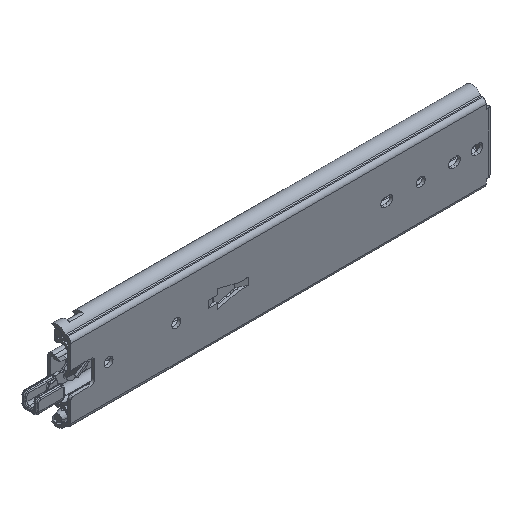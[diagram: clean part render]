
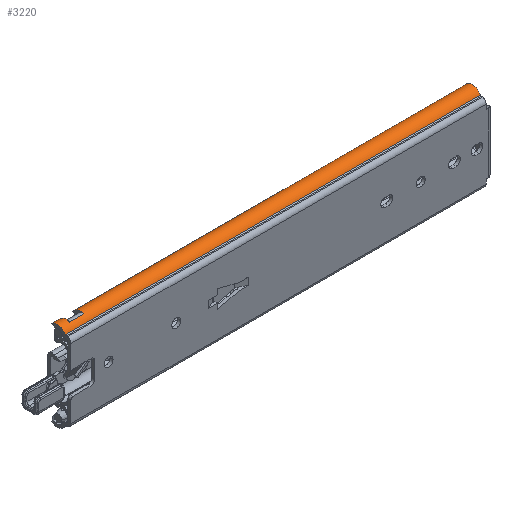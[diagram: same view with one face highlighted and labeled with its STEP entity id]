
A CAD part, isometric view. The second image highlights one B-rep face of the part: STEP entity #3220.
In plain terms, the highlighted cylindrical face has radius 7.25 mm (diameter 14.5 mm), a partial arc.
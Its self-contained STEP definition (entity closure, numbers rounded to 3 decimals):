
#5=CARTESIAN_POINT('',(0.,11.5,30.4));
#6=DIRECTION('',(1.,0.,0.));
#7=DIRECTION('',(0.,0.632,0.775));
#8=AXIS2_PLACEMENT_3D('',#5,#6,#7);
#827=CARTESIAN_POINT('',(350.6,11.5,30.4));
#828=DIRECTION('',(1.,0.,0.));
#829=DIRECTION('',(0.,0.38,0.925));
#830=AXIS2_PLACEMENT_3D('',#827,#828,#829);
#876=CARTESIAN_POINT('',(1.401,17.079,35.031));
#877=CARTESIAN_POINT('',(0.932,16.779,35.392));
#878=CARTESIAN_POINT('',(0.465,16.446,35.722));
#879=CARTESIAN_POINT('',(0.,16.079,
36.021));
#881=DIRECTION('',(1.,0.,0.));
#882=VECTOR('',#881,6.099);
#883=CARTESIAN_POINT('',(1.401,17.079,35.031));
#884=LINE('',#883,#882);
#885=CARTESIAN_POINT('',(7.5,11.5,30.4));
#886=DIRECTION('',(1.,0.,0.));
#887=DIRECTION('',(0.,0.769,0.639));
#888=AXIS2_PLACEMENT_3D('',#885,#886,#887);
#890=CARTESIAN_POINT('',(19.5,11.5,30.4));
#891=DIRECTION('',(1.,0.,0.));
#892=DIRECTION('',(0.,0.769,0.639));
#893=AXIS2_PLACEMENT_3D('',#890,#891,#892);
#895=DIRECTION('',(1.,0.,0.));
#896=VECTOR('',#895,329.765);
#897=CARTESIAN_POINT('',(19.5,17.079,35.031));
#898=LINE('',#897,#896);
#899=CARTESIAN_POINT('',(350.6,14.255,37.106));
#900=CARTESIAN_POINT('',(350.6,14.486,37.011));
#901=CARTESIAN_POINT('',(350.571,14.942,36.797));
#902=CARTESIAN_POINT('',(350.416,15.607,36.391));
#903=CARTESIAN_POINT('',(350.14,16.203,35.934));
#904=CARTESIAN_POINT('',(349.731,16.72,35.445));
#905=CARTESIAN_POINT('',(349.426,16.968,35.164));
#906=CARTESIAN_POINT('',(349.265,17.079,35.031));
#908=DIRECTION('',(1.,0.,0.));
#909=VECTOR('',#908,350.6);
#910=CARTESIAN_POINT('',(0.,4.916,33.436));
#911=LINE('',#910,#909);
#1221=DIRECTION('',(1.,0.,0.));
#1222=VECTOR('',#1221,12.);
#1223=CARTESIAN_POINT('',(7.5,8.515,37.007));
#1224=LINE('',#1223,#1222);
#1676=CARTESIAN_POINT('',(0.,4.916,33.436));
#1678=VERTEX_POINT('',#1676);
#1700=CARTESIAN_POINT('',(7.5,17.079,35.031));
#1702=VERTEX_POINT('',#1700);
#1704=CARTESIAN_POINT('',(19.5,17.079,35.031));
#1706=VERTEX_POINT('',#1704);
#1751=CARTESIAN_POINT('',(7.5,8.515,37.007));
#1752=VERTEX_POINT('',#1751);
#1753=CARTESIAN_POINT('',(19.5,8.515,37.007));
#1754=VERTEX_POINT('',#1753);
#2050=CARTESIAN_POINT('',(350.6,4.916,33.436));
#2051=VERTEX_POINT('',#2050);
#2108=VERTEX_POINT('',#899);
#2109=VERTEX_POINT('',#906);
#2132=CARTESIAN_POINT('',(1.401,17.079,35.031));
#2133=VERTEX_POINT('',#2132);
#2134=VERTEX_POINT('',#879);
#3197=CARTESIAN_POINT('',(0.,11.5,30.4));
#3198=DIRECTION('',(1.,0.,0.));
#3199=DIRECTION('',(0.,-1.,0.));
#3200=AXIS2_PLACEMENT_3D('',#3197,#3198,#3199);
#3201=CYLINDRICAL_SURFACE('',#3200,7.25);
#3202=ORIENTED_EDGE('',*,*,#2229,.F.);
#3204=ORIENTED_EDGE('',*,*,#3203,.T.);
#3206=ORIENTED_EDGE('',*,*,#3205,.T.);
#3208=ORIENTED_EDGE('',*,*,#3207,.T.);
#3210=ORIENTED_EDGE('',*,*,#3209,.F.);
#3212=ORIENTED_EDGE('',*,*,#3211,.T.);
#3213=ORIENTED_EDGE('',*,*,#3184,.F.);
#3214=ORIENTED_EDGE('',*,*,#3145,.T.);
#3216=ORIENTED_EDGE('',*,*,#3215,.F.);
#3217=ORIENTED_EDGE('',*,*,#2151,.F.);
#3218=EDGE_LOOP('',(#3202,#3204,#3206,#3208,#3210,#3212,#3213,#3214,#3216,
#3217));
#3219=FACE_OUTER_BOUND('',#3218,.F.);
#9=CIRCLE('',#8,7.25);
#831=CIRCLE('',#830,7.25);
#880=B_SPLINE_CURVE_WITH_KNOTS('',3,(#876,#877,#878,#879),.UNSPECIFIED.,.F.,.F.,
(4,4),(0.,1.),.UNSPECIFIED.);
#889=CIRCLE('',#888,7.25);
#894=CIRCLE('',#893,7.25);
#907=B_SPLINE_CURVE_WITH_KNOTS('',3,(#899,#900,#901,#902,#903,#904,#905,#906),
.UNSPECIFIED.,.F.,.F.,(4,1,1,1,1,4),(0.,0.2,0.4,0.6,0.8,1.),
.UNSPECIFIED.);
#2151=EDGE_CURVE('',#2134,#1678,#9,.T.);
#2229=EDGE_CURVE('',#2133,#2134,#880,.T.);
#3145=EDGE_CURVE('',#2108,#2051,#831,.T.);
#3184=EDGE_CURVE('',#2108,#2109,#907,.T.);
#3203=EDGE_CURVE('',#2133,#1702,#884,.T.);
#3205=EDGE_CURVE('',#1702,#1752,#889,.T.);
#3207=EDGE_CURVE('',#1752,#1754,#1224,.T.);
#3209=EDGE_CURVE('',#1706,#1754,#894,.T.);
#3211=EDGE_CURVE('',#1706,#2109,#898,.T.);
#3215=EDGE_CURVE('',#1678,#2051,#911,.T.);
#3220=ADVANCED_FACE('',(#3219),#3201,.T.);
